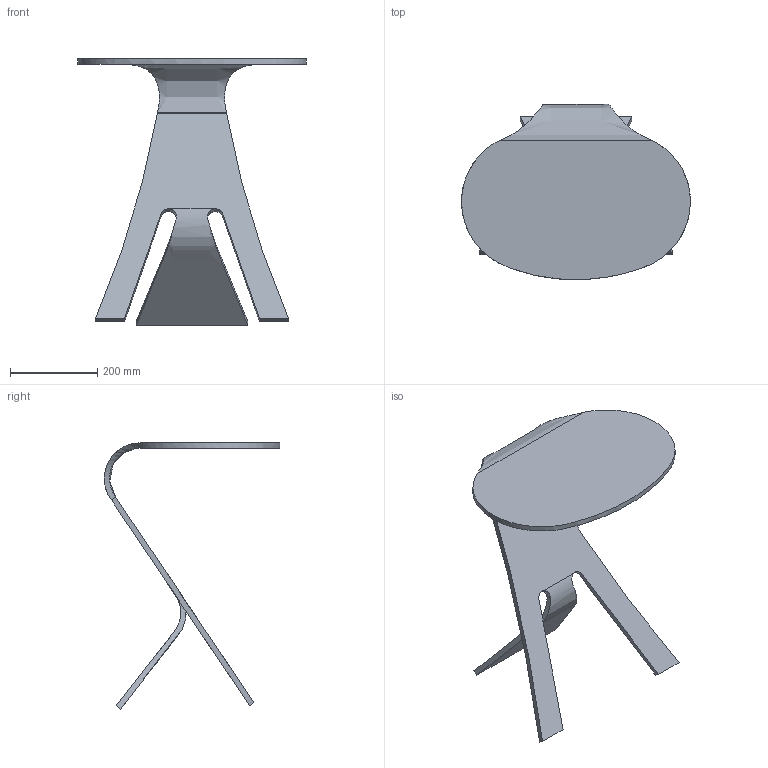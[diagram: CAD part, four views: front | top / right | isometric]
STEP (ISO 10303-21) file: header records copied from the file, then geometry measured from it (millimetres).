
FILE_DESCRIPTION(/* description */ (''),/* implementation_level */ '2;1');
FILE_NAME(/* name */ '1800 - Grillo',/* time_stamp */ '2010-11-05T09:07:11+01:00',/* author */ (''),/* organization */ (''),/* preprocessor_version */ 'ST-DEVELOPER v10',/* originating_system */ '',/* authorisation */ '');
FILE_SCHEMA (('CONFIG_CONTROL_DESIGN'));
Length unit declared in the file: centimetre
Products named in the file (1): 1
Bounding box: 524.9 x 402.21 x 610.61 mm (x, y, z)
Volume: 3775935.9 mm3; surface area: 686210.3 mm2
Topology: 1 solids, 1 shells, 25 faces, 62 edges, 39 vertices
Faces by surface type: bspline 20, plane 5
Entity records: 1645 total; most frequent: CARTESIAN_POINT 1159, ORIENTED_EDGE 124, EDGE_CURVE 62, B_SPLINE_CURVE_WITH_KNOTS 59, VERTEX_POINT 39, ADVANCED_FACE 25, FACE_OUTER_BOUND 25, EDGE_LOOP 25
